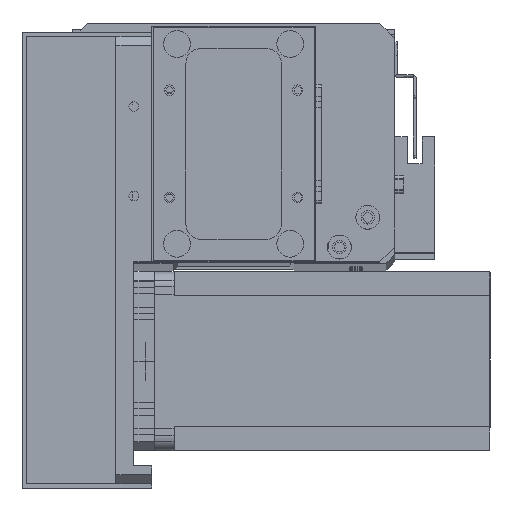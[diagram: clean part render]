
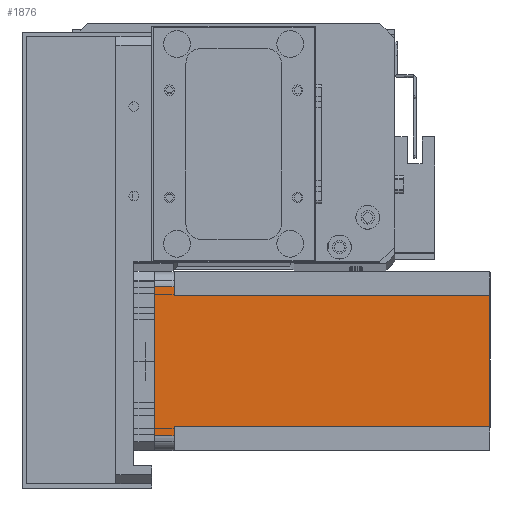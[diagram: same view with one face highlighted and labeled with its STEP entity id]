
A CAD part, top view. The second image highlights one B-rep face of the part: STEP entity #1876.
In plain terms, the highlighted planar face has unit normal (0, 0, 1) as drawn and (0, 1, 0) by its records, which use the part's own axes.
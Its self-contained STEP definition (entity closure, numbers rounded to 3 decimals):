
#378 = CARTESIAN_POINT ( 'NONE',  ( 8., 60., -112.5 ) ) ;
#457 = DIRECTION ( 'NONE',  ( -1., 0., 0. ) ) ;
#551 = CARTESIAN_POINT ( 'NONE',  ( 0., 60., 0. ) ) ;
#1118 = CARTESIAN_POINT ( 'NONE',  ( 52., 60., -112.5 ) ) ;
#1394 = CARTESIAN_POINT ( 'NONE',  ( 8., 60., -6.5 ) ) ;
#1403 = DIRECTION ( 'NONE',  ( -1., 0., 0. ) ) ;
#1828 = CARTESIAN_POINT ( 'NONE',  ( 8., 60., -6.5 ) ) ;
#1876 = ADVANCED_FACE ( 'NONE', ( #20144 ), #11729, .T. ) ;
#2265 = ORIENTED_EDGE ( 'NONE', *, *, #18115, .T. ) ;
#2991 = DIRECTION ( 'NONE',  ( 0., 0., -1. ) ) ;
#3146 = LINE ( 'NONE', #551, #22702 ) ;
#3593 = LINE ( 'NONE', #11652, #22390 ) ;
#4319 = VECTOR ( 'NONE', #19389, 1000. ) ;
#4337 = VECTOR ( 'NONE', #25720, 1000. ) ;
#4450 = VERTEX_POINT ( 'NONE', #20438 ) ;
#4568 = VERTEX_POINT ( 'NONE', #13950 ) ;
#4726 = EDGE_CURVE ( 'NONE', #4450, #11038, #3146, .T. ) ;
#4985 = EDGE_CURVE ( 'NONE', #4568, #11038, #29238, .T. ) ;
#5119 = LINE ( 'NONE', #9753, #4319 ) ;
#5318 = CARTESIAN_POINT ( 'NONE',  ( 0., 60., -112.5 ) ) ;
#5336 = ORIENTED_EDGE ( 'NONE', *, *, #11752, .T. ) ;
#5439 = DIRECTION ( 'NONE',  ( -1., 0., 0. ) ) ;
#5809 = ORIENTED_EDGE ( 'NONE', *, *, #4726, .F. ) ;
#6717 = DIRECTION ( 'NONE',  ( 0., 0., -1. ) ) ;
#9614 = ORIENTED_EDGE ( 'NONE', *, *, #29020, .F. ) ;
#9719 = VECTOR ( 'NONE', #2991, 1000. ) ;
#9753 = CARTESIAN_POINT ( 'NONE',  ( 52., 60., -112.5 ) ) ;
#11038 = VERTEX_POINT ( 'NONE', #17094 ) ;
#11060 = CARTESIAN_POINT ( 'NONE',  ( 55., 60., -6.5 ) ) ;
#11319 = ORIENTED_EDGE ( 'NONE', *, *, #13353, .F. ) ;
#11569 = CARTESIAN_POINT ( 'NONE',  ( 0., 60., -112.5 ) ) ;
#11652 = CARTESIAN_POINT ( 'NONE',  ( 55., 60., -112.5 ) ) ;
#11729 = PLANE ( 'NONE',  #31391 ) ;
#11748 = VERTEX_POINT ( 'NONE', #1828 ) ;
#11752 = EDGE_CURVE ( 'NONE', #11748, #4568, #17800, .T. ) ;
#13013 = DIRECTION ( 'NONE',  ( 0., 1., 0. ) ) ;
#13208 = DIRECTION ( 'NONE',  ( 0., 0., 1. ) ) ;
#13353 = EDGE_CURVE ( 'NONE', #11748, #24262, #30172, .T. ) ;
#13950 = CARTESIAN_POINT ( 'NONE',  ( 5., 60., -6.5 ) ) ;
#14043 = VERTEX_POINT ( 'NONE', #11060 ) ;
#14456 = LINE ( 'NONE', #5318, #26196 ) ;
#14993 = ORIENTED_EDGE ( 'NONE', *, *, #4985, .T. ) ;
#15487 = VECTOR ( 'NONE', #18485, 1000. ) ;
#17094 = CARTESIAN_POINT ( 'NONE',  ( 5., 60., 0. ) ) ;
#17800 = LINE ( 'NONE', #1394, #29507 ) ;
#18115 = EDGE_CURVE ( 'NONE', #20667, #24262, #14456, .T. ) ;
#18145 = CARTESIAN_POINT ( 'NONE',  ( 8., 60., -112.5 ) ) ;
#18485 = DIRECTION ( 'NONE',  ( 1., 0., 0. ) ) ;
#19346 = ORIENTED_EDGE ( 'NONE', *, *, #19557, .T. ) ;
#19389 = DIRECTION ( 'NONE',  ( 0., 0., 1. ) ) ;
#19557 = EDGE_CURVE ( 'NONE', #4450, #14043, #3593, .T. ) ;
#19982 = VERTEX_POINT ( 'NONE', #25250 ) ;
#20055 = EDGE_LOOP ( 'NONE', ( #5809, #19346, #29312, #9614, #2265, #11319, #5336, #14993 ) ) ;
#20144 = FACE_OUTER_BOUND ( 'NONE', #20055, .T. ) ;
#20438 = CARTESIAN_POINT ( 'NONE',  ( 55., 60., 0. ) ) ;
#20667 = VERTEX_POINT ( 'NONE', #1118 ) ;
#21803 = LINE ( 'NONE', #27730, #15487 ) ;
#22390 = VECTOR ( 'NONE', #6717, 1000. ) ;
#22702 = VECTOR ( 'NONE', #457, 1000. ) ;
#23672 = EDGE_CURVE ( 'NONE', #19982, #14043, #21803, .T. ) ;
#24262 = VERTEX_POINT ( 'NONE', #18145 ) ;
#25250 = CARTESIAN_POINT ( 'NONE',  ( 52., 60., -6.5 ) ) ;
#25720 = DIRECTION ( 'NONE',  ( 0., 0., 1. ) ) ;
#26196 = VECTOR ( 'NONE', #5439, 1000. ) ;
#27730 = CARTESIAN_POINT ( 'NONE',  ( 52., 60., -6.5 ) ) ;
#29020 = EDGE_CURVE ( 'NONE', #20667, #19982, #5119, .T. ) ;
#29238 = LINE ( 'NONE', #29263, #4337 ) ;
#29263 = CARTESIAN_POINT ( 'NONE',  ( 5., 60., -112.5 ) ) ;
#29312 = ORIENTED_EDGE ( 'NONE', *, *, #23672, .F. ) ;
#29507 = VECTOR ( 'NONE', #1403, 1000. ) ;
#30172 = LINE ( 'NONE', #378, #9719 ) ;
#31391 = AXIS2_PLACEMENT_3D ( 'NONE', #11569, #13013, #13208 ) ;
